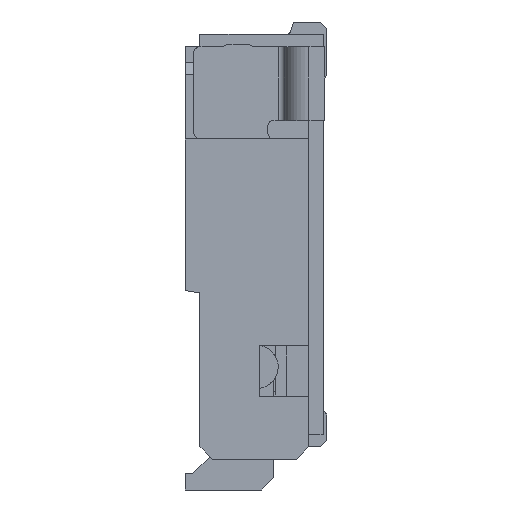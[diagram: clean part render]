
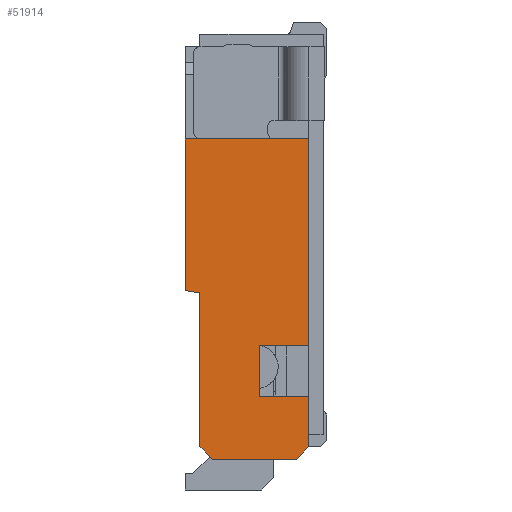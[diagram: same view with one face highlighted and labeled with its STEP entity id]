
A CAD part, left-side view. The second image highlights one B-rep face of the part: STEP entity #51914.
In plain terms, the highlighted planar face has unit normal (-1, 0, 0).
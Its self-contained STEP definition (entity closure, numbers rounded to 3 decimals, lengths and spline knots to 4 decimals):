
#25=DIRECTION('',(0.,-1.,0.));
#26=VECTOR('',#25,0.68);
#27=CARTESIAN_POINT('',(-4.8,0.34,-1.725));
#28=LINE('',#27,#26);
#175=DIRECTION('',(0.,0.,1.));
#176=VECTOR('',#175,1.68);
#177=CARTESIAN_POINT('',(-4.8,-0.44,-0.805));
#178=LINE('',#177,#176);
#199=DIRECTION('',(0.,0.,1.));
#200=VECTOR('',#199,0.41);
#201=CARTESIAN_POINT('',(-4.8,-0.44,-1.625));
#202=LINE('',#201,#200);
#1358=DIRECTION('',(0.,0.,-1.));
#1359=VECTOR('',#1358,0.41);
#1360=CARTESIAN_POINT('',(-4.8,-0.04,-0.805));
#1361=LINE('',#1360,#1359);
#1362=DIRECTION('',(0.,1.,0.));
#1363=VECTOR('',#1362,0.4);
#1364=CARTESIAN_POINT('',(-4.8,-0.44,-1.215));
#1365=LINE('',#1364,#1363);
#1366=DIRECTION('',(0.,-0.707,0.707));
#1367=VECTOR('',#1366,0.1414);
#1368=CARTESIAN_POINT('',(-4.8,-0.34,-1.725));
#1369=LINE('',#1368,#1367);
#1370=DIRECTION('',(0.,-0.707,-0.707));
#1371=VECTOR('',#1370,0.1414);
#1372=CARTESIAN_POINT('',(-4.8,0.44,-1.625));
#1373=LINE('',#1372,#1371);
#1374=DIRECTION('',(0.,0.,1.));
#1375=VECTOR('',#1374,1.25);
#1376=CARTESIAN_POINT('',(-4.8,0.44,-1.625));
#1377=LINE('',#1376,#1375);
#1378=DIRECTION('',(0.,-0.986,-0.164));
#1379=VECTOR('',#1378,0.1217);
#1380=CARTESIAN_POINT('',(-4.8,0.56,-0.355));
#1381=LINE('',#1380,#1379);
#1382=DIRECTION('',(0.,0.,1.));
#1383=VECTOR('',#1382,1.23);
#1384=CARTESIAN_POINT('',(-4.8,0.56,-0.355));
#1385=LINE('',#1384,#1383);
#1386=DIRECTION('',(0.,-1.,0.));
#1387=VECTOR('',#1386,1.);
#1388=CARTESIAN_POINT('',(-4.8,0.56,0.875));
#1389=LINE('',#1388,#1387);
#1390=DIRECTION('',(0.,1.,0.));
#1391=VECTOR('',#1390,0.4);
#1392=CARTESIAN_POINT('',(-4.8,-0.44,-0.805));
#1393=LINE('',#1392,#1391);
#38285=CARTESIAN_POINT('',(-4.8,0.44,-1.625));
#38286=CARTESIAN_POINT('',(-4.8,0.34,-1.725));
#38287=VERTEX_POINT('',#38285);
#38288=VERTEX_POINT('',#38286);
#38289=CARTESIAN_POINT('',(-4.8,0.44,-0.375));
#38290=VERTEX_POINT('',#38289);
#38293=CARTESIAN_POINT('',(-4.8,-0.34,-1.725));
#38294=VERTEX_POINT('',#38293);
#38297=CARTESIAN_POINT('',(-4.8,-0.44,-1.625));
#38298=VERTEX_POINT('',#38297);
#38755=CARTESIAN_POINT('',(-4.8,0.56,-0.355));
#38756=VERTEX_POINT('',#38755);
#38759=CARTESIAN_POINT('',(-4.8,0.56,0.875));
#38760=CARTESIAN_POINT('',(-4.8,-0.44,0.875));
#38761=VERTEX_POINT('',#38759);
#38762=VERTEX_POINT('',#38760);
#39693=CARTESIAN_POINT('',(-4.8,-0.04,-0.805));
#39694=CARTESIAN_POINT('',(-4.8,-0.04,-1.215));
#39695=VERTEX_POINT('',#39693);
#39696=VERTEX_POINT('',#39694);
#39697=CARTESIAN_POINT('',(-4.8,-0.44,-1.215));
#39698=VERTEX_POINT('',#39697);
#39699=CARTESIAN_POINT('',(-4.8,-0.44,-0.805));
#39700=VERTEX_POINT('',#39699);
#51889=CARTESIAN_POINT('',(-4.8,0.56,-1.725));
#51890=DIRECTION('',(-1.,0.,0.));
#51891=DIRECTION('',(0.,-1.,0.));
#51892=AXIS2_PLACEMENT_3D('',#51889,#51890,#51891);
#51893=PLANE('',#51892);
#51894=ORIENTED_EDGE('',*,*,#50733,.T.);
#51896=ORIENTED_EDGE('',*,*,#51895,.F.);
#51897=ORIENTED_EDGE('',*,*,#50650,.F.);
#51899=ORIENTED_EDGE('',*,*,#51898,.F.);
#51900=ORIENTED_EDGE('',*,*,#50464,.F.);
#51901=ORIENTED_EDGE('',*,*,#51869,.F.);
#51902=ORIENTED_EDGE('',*,*,#51436,.T.);
#51904=ORIENTED_EDGE('',*,*,#51903,.F.);
#51906=ORIENTED_EDGE('',*,*,#51905,.T.);
#51908=ORIENTED_EDGE('',*,*,#51907,.T.);
#51909=ORIENTED_EDGE('',*,*,#50634,.F.);
#51911=ORIENTED_EDGE('',*,*,#51910,.T.);
#51912=EDGE_LOOP('',(#51894,#51896,#51897,#51899,#51900,#51901,#51902,#51904,
#51906,#51908,#51909,#51911));
#51913=FACE_OUTER_BOUND('',#51912,.F.);
#51914=ADVANCED_FACE('',(#51913),#51893,.T.);
#50464=EDGE_CURVE('',#38288,#38294,#28,.T.);
#50634=EDGE_CURVE('',#39700,#38762,#178,.T.);
#50650=EDGE_CURVE('',#38298,#39698,#202,.T.);
#50733=EDGE_CURVE('',#39695,#39696,#1361,.T.);
#51436=EDGE_CURVE('',#38287,#38290,#1377,.T.);
#51869=EDGE_CURVE('',#38287,#38288,#1373,.T.);
#51895=EDGE_CURVE('',#39698,#39696,#1365,.T.);
#51898=EDGE_CURVE('',#38294,#38298,#1369,.T.);
#51903=EDGE_CURVE('',#38756,#38290,#1381,.T.);
#51905=EDGE_CURVE('',#38756,#38761,#1385,.T.);
#51907=EDGE_CURVE('',#38761,#38762,#1389,.T.);
#51910=EDGE_CURVE('',#39700,#39695,#1393,.T.);
